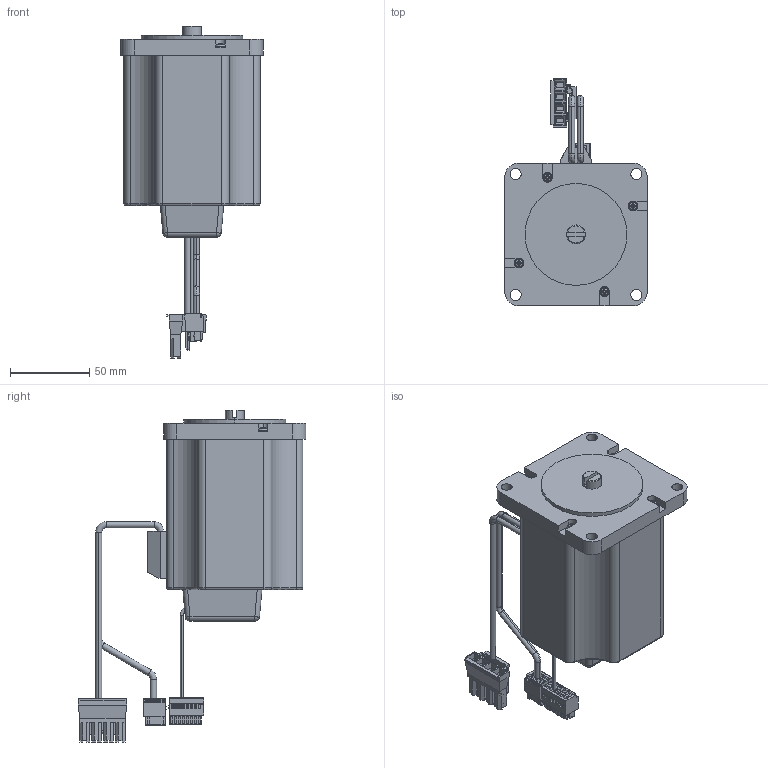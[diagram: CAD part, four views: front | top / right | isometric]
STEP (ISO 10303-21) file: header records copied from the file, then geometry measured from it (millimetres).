
FILE_DESCRIPTION (( 'STEP AP214' ), '1' );
FILE_NAME ('PBL86_assem.STEP', '2021-09-07T09:27:07', ( '' ), ( '' ), 'SwSTEP 2.0', 'SolidWorks 2020', '' );
FILE_SCHEMA (( 'AUTOMOTIVE_DESIGN' ));
Length unit declared in the file: millimetre
Products named in the file (1): PBL86_assem
Bounding box: 90 x 143.99 x 209.88 mm (x, y, z)
Volume: 736218.4 mm3; surface area: 95188.2 mm2
Topology: 26 solids, 28 shells, 3096 faces, 7767 edges, 4941 vertices
Faces by surface type: plane 1485, cylinder 817, cone 592, bspline 112, torus 69, sphere 21
Entity records: 132510 total; most frequent: CARTESIAN_POINT 23302, DIRECTION 15764, ORIENTED_EDGE 15514, EDGE_CURVE 7757, AXIS2_PLACEMENT_3D 5558, VERTEX_POINT 4941, VECTOR 4648, LINE 4648
